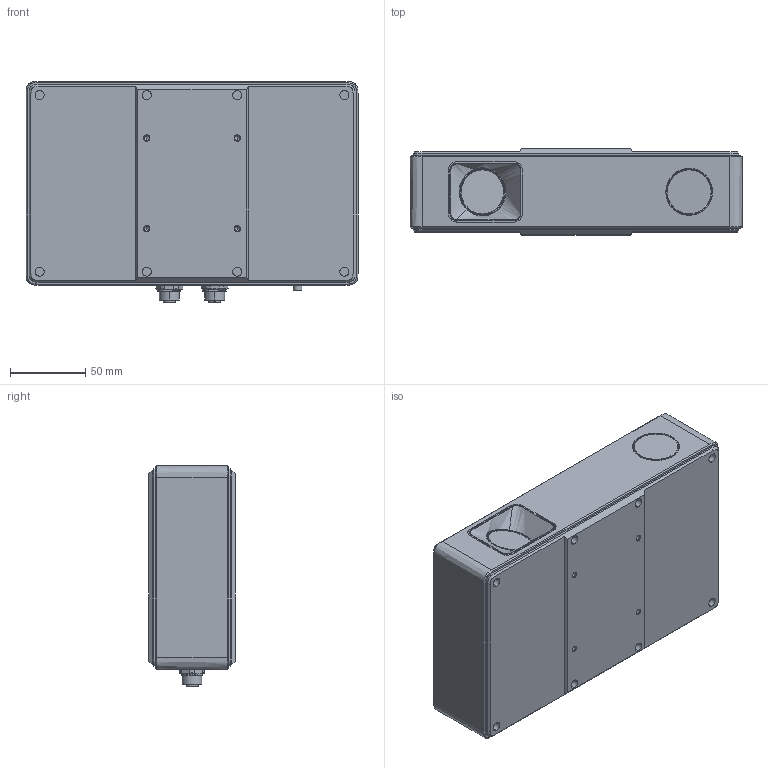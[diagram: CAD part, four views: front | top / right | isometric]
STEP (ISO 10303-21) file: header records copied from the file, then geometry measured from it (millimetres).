
FILE_DESCRIPTION(/* description */ (''),/* implementation_level */ '2;1');
FILE_NAME(/* name */ 'RVC-I5180',/* time_stamp */ '2024-01-17T17:01:30+08:00',/* author */ (''),/* organization */ (''),/* preprocessor_version */ 'ST-DEVELOPER v16.5',/* originating_system */ 'Rhino 7.25',/* authorisation */ '');
FILE_SCHEMA (('CONFIG_CONTROL_DESIGN'));
Length unit declared in the file: millimetre
Products named in the file (1): Document
Bounding box: 220 x 57 x 146.6 mm (x, y, z)
Volume: 1591885.7 mm3; surface area: 100648.7 mm2
Topology: 1 solids, 1 shells, 676 faces, 1672 edges, 1072 vertices
Faces by surface type: plane 327, bspline 176, cylinder 173
Entity records: 33966 total; most frequent: CARTESIAN_POINT 20033, ORIENTED_EDGE 3328, EDGE_CURVE 1664, B_SPLINE_CURVE_WITH_KNOTS 1156, VERTEX_POINT 1072, EDGE_LOOP 764, ADVANCED_FACE 676, FACE_OUTER_BOUND 676
